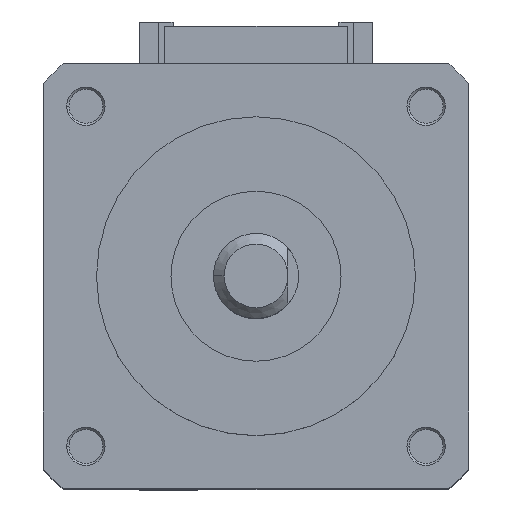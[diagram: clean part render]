
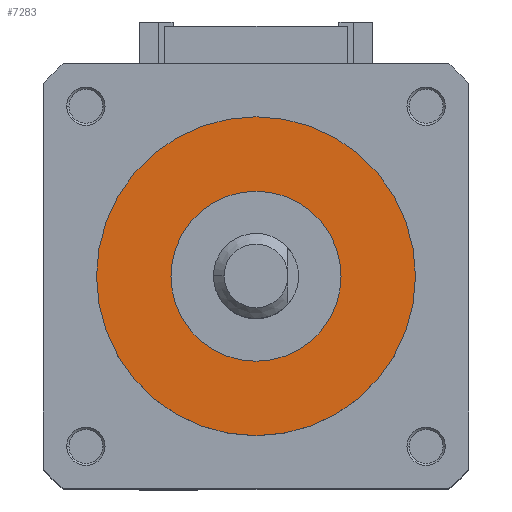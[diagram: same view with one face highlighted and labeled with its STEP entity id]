
A CAD part, top view. The second image highlights one B-rep face of the part: STEP entity #7283.
In plain terms, the highlighted planar face has unit normal (0, 0, 1).
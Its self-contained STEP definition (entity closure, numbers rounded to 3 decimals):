
#1337 = VERTEX_POINT ( 'NONE', #5820 ) ;
#1338 = VERTEX_POINT ( 'NONE', #5818 ) ;
#1339 = VERTEX_POINT ( 'NONE', #5817 ) ;
#1340 = VERTEX_POINT ( 'NONE', #5816 ) ;
#1774 = CARTESIAN_POINT ( 'NONE',  ( 0., 0., 4.536 ) ) ;
#1780 = DIRECTION ( 'NONE',  ( 0., 0., 1. ) ) ;
#1781 = DIRECTION ( 'NONE',  ( 1., 0., 0. ) ) ;
#1822 = CARTESIAN_POINT ( 'NONE',  ( 0., 0., 4.536 ) ) ;
#1824 = DIRECTION ( 'NONE',  ( 0., 0., 1. ) ) ;
#1825 = DIRECTION ( 'NONE',  ( 1., 0., 0. ) ) ;
#2794 = CARTESIAN_POINT ( 'NONE',  ( 0., 0., 4.536 ) ) ;
#2797 = CARTESIAN_POINT ( 'NONE',  ( 0., 0., 4.536 ) ) ;
#2801 = DIRECTION ( 'NONE',  ( 0., 0., 1. ) ) ;
#2802 = DIRECTION ( 'NONE',  ( 1., 0., 0. ) ) ;
#2804 = DIRECTION ( 'NONE',  ( 0., 0., 1. ) ) ;
#2805 = DIRECTION ( 'NONE',  ( 1., 0., 0. ) ) ;
#3060 = EDGE_CURVE ( 'NONE', #1338, #1337, #3469, .T. ) ;
#3076 = EDGE_CURVE ( 'NONE', #1340, #1339, #3494, .T. ) ;
#3225 = FACE_OUTER_BOUND ( 'NONE', #7490, .T. ) ;
#3237 = FACE_BOUND ( 'NONE', #7483, .T. ) ;
#3469 = CIRCLE ( 'NONE', #5431, 7.5 ) ;
#3494 = CIRCLE ( 'NONE', #5434, 4. ) ;
#4826 = CARTESIAN_POINT ( 'NONE',  ( 0., 0., 4.536 ) ) ;
#4834 = PLANE ( 'NONE',  #8161 ) ;
#4835 = DIRECTION ( 'NONE',  ( 0., 0., 1. ) ) ;
#4836 = DIRECTION ( 'NONE',  ( 1., 0., 0. ) ) ;
#5029 = CIRCLE ( 'NONE', #5596, 7.5 ) ;
#5031 = CIRCLE ( 'NONE', #5597, 4. ) ;
#5431 = AXIS2_PLACEMENT_3D ( 'NONE', #1774, #1780, #1781 ) ;
#5434 = AXIS2_PLACEMENT_3D ( 'NONE', #1822, #1824, #1825 ) ;
#5596 = AXIS2_PLACEMENT_3D ( 'NONE', #2794, #2801, #2802 ) ;
#5597 = AXIS2_PLACEMENT_3D ( 'NONE', #2797, #2804, #2805 ) ;
#5816 = CARTESIAN_POINT ( 'NONE',  ( -4., 0., 4.536 ) ) ;
#5817 = CARTESIAN_POINT ( 'NONE',  ( 4., 0., 4.536 ) ) ;
#5818 = CARTESIAN_POINT ( 'NONE',  ( 7.5, 0., 4.536 ) ) ;
#5820 = CARTESIAN_POINT ( 'NONE',  ( -7.5, 0., 4.536 ) ) ;
#6747 = EDGE_CURVE ( 'NONE', #1337, #1338, #5029, .T. ) ;
#6748 = EDGE_CURVE ( 'NONE', #1339, #1340, #5031, .T. ) ;
#6917 = ORIENTED_EDGE ( 'NONE', *, *, #6748, .F. ) ;
#6918 = ORIENTED_EDGE ( 'NONE', *, *, #3076, .F. ) ;
#6919 = ORIENTED_EDGE ( 'NONE', *, *, #6747, .T. ) ;
#6920 = ORIENTED_EDGE ( 'NONE', *, *, #3060, .T. ) ;
#7283 = ADVANCED_FACE ( 'NONE', ( #3237, #3225 ), #4834, .T. ) ;
#7483 = EDGE_LOOP ( 'NONE', ( #6917, #6918 ) ) ;
#7490 = EDGE_LOOP ( 'NONE', ( #6919, #6920 ) ) ;
#8161 = AXIS2_PLACEMENT_3D ( 'NONE', #4826, #4835, #4836 ) ;
